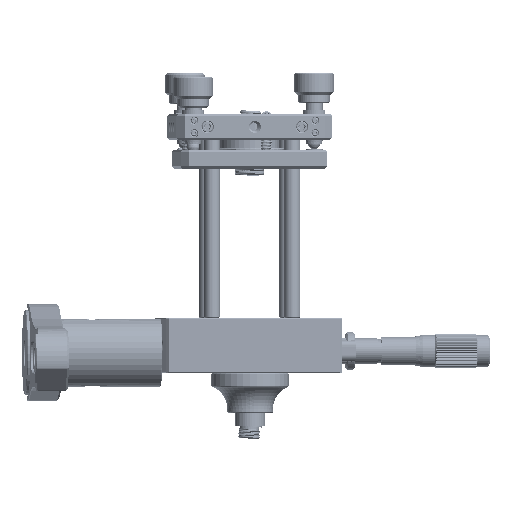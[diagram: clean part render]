
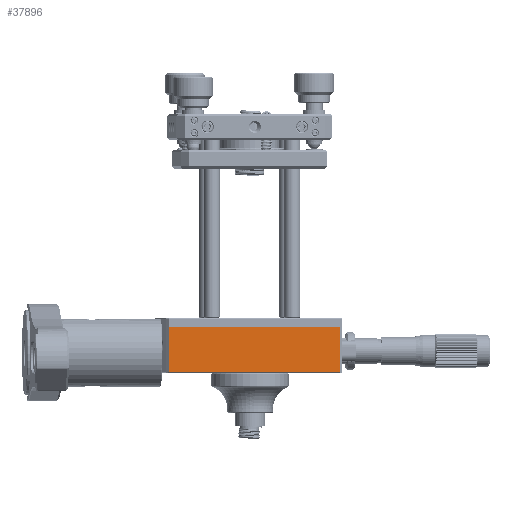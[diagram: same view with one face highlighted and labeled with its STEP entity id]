
A CAD part, left-side view. The second image highlights one B-rep face of the part: STEP entity #37896.
In plain terms, the highlighted planar face has unit normal (-0.998, -0.06, 0) as drawn and (1, 0, 0) by its records, which use the part's own axes.
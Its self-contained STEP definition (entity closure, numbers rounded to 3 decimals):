
#17531=DIRECTION('',(0.,0.,1.));
#17532=VECTOR('',#17531,16.768);
#17533=CARTESIAN_POINT('',(66.04,65.04,-8.259));
#17534=LINE('',#17533,#17532);
#17543=DIRECTION('',(0.,0.,1.));
#17544=VECTOR('',#17543,16.768);
#17545=CARTESIAN_POINT('',(66.04,1.,-8.259));
#17546=LINE('',#17545,#17544);
#17547=DIRECTION('',(0.,-1.,0.));
#17548=VECTOR('',#17547,64.04);
#17549=CARTESIAN_POINT('',(66.04,65.04,-8.259));
#17550=LINE('',#17549,#17548);
#17591=DIRECTION('',(0.,-1.,0.));
#17592=VECTOR('',#17591,64.04);
#17593=CARTESIAN_POINT('',(66.04,65.04,8.509));
#17594=LINE('',#17593,#17592);
#35655=CARTESIAN_POINT('',(66.04,1.,8.509));
#35656=VERTEX_POINT('',#35655);
#35657=CARTESIAN_POINT('',(66.04,1.,-8.259));
#35658=VERTEX_POINT('',#35657);
#35751=CARTESIAN_POINT('',(66.04,65.04,-8.259));
#35752=VERTEX_POINT('',#35751);
#35753=CARTESIAN_POINT('',(66.04,65.04,8.509));
#35754=VERTEX_POINT('',#35753);
#37884=CARTESIAN_POINT('',(66.04,0.,8.509));
#37885=DIRECTION('',(-1.,0.,0.));
#37886=DIRECTION('',(0.,0.,1.));
#37887=AXIS2_PLACEMENT_3D('',#37884,#37885,#37886);
#37888=PLANE('',#37887);
#37889=ORIENTED_EDGE('',*,*,#37633,.T.);
#37891=ORIENTED_EDGE('',*,*,#37890,.F.);
#37892=ORIENTED_EDGE('',*,*,#37861,.F.);
#37893=ORIENTED_EDGE('',*,*,#37877,.T.);
#37894=EDGE_LOOP('',(#37889,#37891,#37892,#37893));
#37895=FACE_OUTER_BOUND('',#37894,.F.);
#37896=ADVANCED_FACE('',(#37895),#37888,.F.);
#37633=EDGE_CURVE('',#35658,#35656,#17546,.T.);
#37861=EDGE_CURVE('',#35752,#35754,#17534,.T.);
#37877=EDGE_CURVE('',#35752,#35658,#17550,.T.);
#37890=EDGE_CURVE('',#35754,#35656,#17594,.T.);
